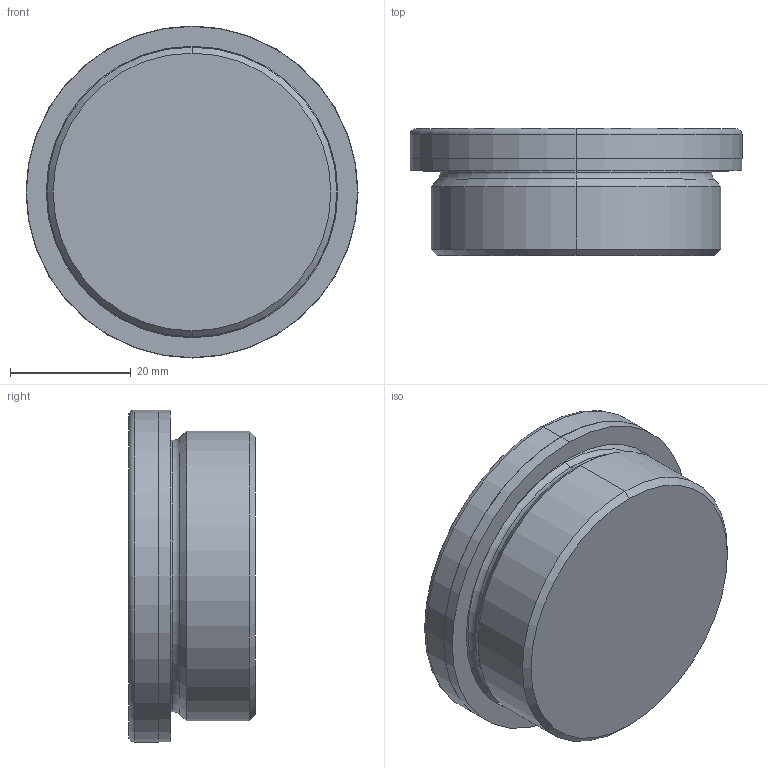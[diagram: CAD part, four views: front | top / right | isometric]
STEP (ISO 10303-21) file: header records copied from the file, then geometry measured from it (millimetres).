
FILE_DESCRIPTION (( 'STEP AP214' ), '1' );
FILE_NAME ('908-ST-M48x2-AC.step', '2024-12-19T09:18:11', ( '' ), ( '' ), 'SwSTEP 2.0', 'SolidWorks 2022', '' );
FILE_SCHEMA (( 'AUTOMOTIVE_DESIGN' ));
Length unit declared in the file: millimetre
Products named in the file (1): 908-ST-M48x2-AC
Bounding box: 55 x 21 x 55 mm (x, y, z)
Volume: 35936 mm3; surface area: 9501.9 mm2
Topology: 1 solids, 1 shells, 31 faces, 64 edges, 38 vertices
Faces by surface type: plane 11, cylinder 8, torus 6, cone 6
Entity records: 929 total; most frequent: DIRECTION 160, CARTESIAN_POINT 134, ORIENTED_EDGE 128, AXIS2_PLACEMENT_3D 64, EDGE_CURVE 64, VERTEX_POINT 38, EDGE_LOOP 34, LINE 32
